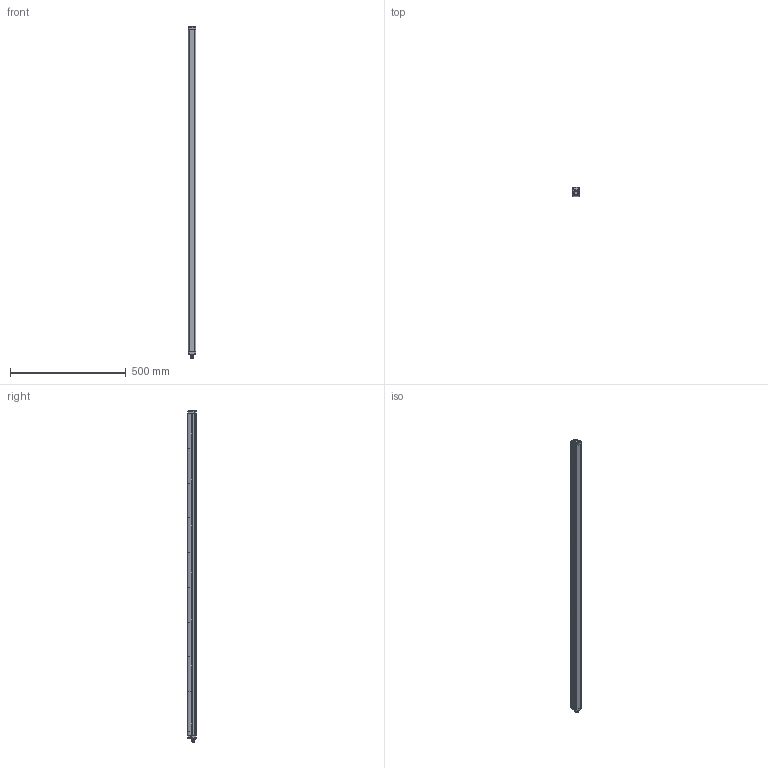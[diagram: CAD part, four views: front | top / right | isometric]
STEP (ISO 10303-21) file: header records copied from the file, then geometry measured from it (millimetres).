
FILE_DESCRIPTION(/* description */ (''),/* implementation_level */ '2;1');
FILE_NAME(/* name */ 'DSD-0153.stp',/* time_stamp */ '2020-07-15T16:31:46+02:00',/* author */ (''),/* organization */ (''),/* preprocessor_version */ 'ST-DEVELOPER v16.7',/* originating_system */ 'SIEMENS PLM Software NX 12.0',/* authorisation */ '');
FILE_SCHEMA (('AUTOMOTIVE_DESIGN { 1 0 10303 214 3 1 1 1 }'));
Products named in the file (1): AP025794_00_1-DSD-0153
Bounding box: 32.3 x 36.9 x 1433.24 mm (x, y, z)
Volume: 1436312.6 mm3; surface area: 333525.4 mm2
Topology: 12 solids, 716 shells, 1630 faces, 5118 edges, 4022 vertices
Faces by surface type: cylinder 606, bspline 568, plane 376, sphere 45, cone 27, torus 8
Full cylindrical faces by diameter (mm): 1 x8, 1.5 x6, 2 x6, 2.05 x4, 2.5 x12, 2.7 x10, 2.9 x6, 3 x12, 3.4 x6, 3.6 x12, 4.7 x2, 5 x10, 5.3 x2, 7.5 x1, 8 x1, 8.2 x1, 9.3 x1, 9.5 x1, 9.55 x1, 10.5 x1, 11 x2, 12 x12, 13.97 x1, 14.3 x1, 16 x2
Entity records: 84195 total; most frequent: CARTESIAN_POINT 35668, ORIENTED_EDGE 6954, DIRECTION 5937, EDGE_CURVE 4903, VERTEX_POINT 4018, AXIS2_PLACEMENT_3D 2310, EDGE_LOOP 1865, PRESENTATION_STYLE_ASSIGNMENT 1638
